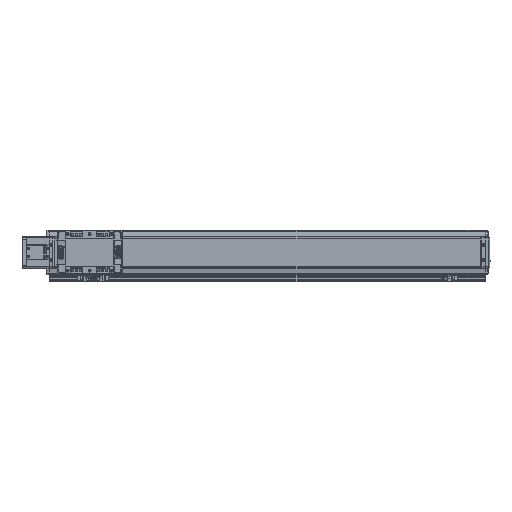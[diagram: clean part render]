
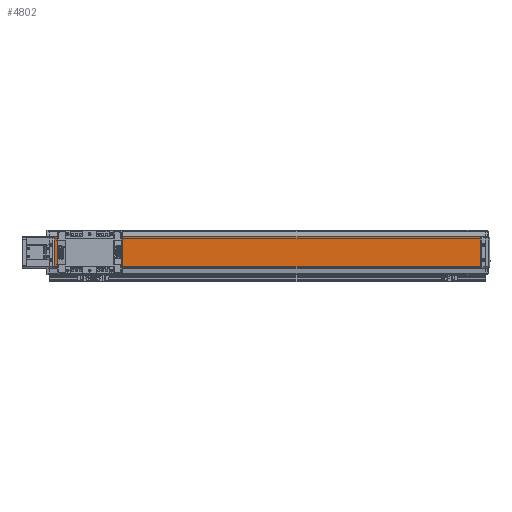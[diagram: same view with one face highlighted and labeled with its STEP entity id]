
A CAD part, top view. The second image highlights one B-rep face of the part: STEP entity #4802.
In plain terms, the highlighted planar face has unit normal (0, 0, 1).
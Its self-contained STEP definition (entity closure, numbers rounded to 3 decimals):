
#4802=ADVANCED_FACE('',(#11837),#11838,.T.);
#11837=FACE_OUTER_BOUND('',#21903,.T.);
#11838=PLANE('',#21904);
#21903=EDGE_LOOP('',(#35858,#35859,#35860,#35861));
#21904=AXIS2_PLACEMENT_3D('',#35862,#35863,#35864);
#35858=ORIENTED_EDGE('',*,*,#61375,.T.);
#35859=ORIENTED_EDGE('',*,*,#61086,.F.);
#35860=ORIENTED_EDGE('',*,*,#61376,.T.);
#35861=ORIENTED_EDGE('',*,*,#61377,.T.);
#35862=CARTESIAN_POINT('',(-580.,0.,20.15));
#35863=DIRECTION('',(0.,0.,1.0));
#35864=DIRECTION('',(0.,-1.0,0.));
#61086=EDGE_CURVE('',#74462,#74460,#74464,.T.);
#61375=EDGE_CURVE('',#74927,#74460,#74928,.T.);
#61376=EDGE_CURVE('',#74462,#74929,#74930,.T.);
#61377=EDGE_CURVE('',#74929,#74927,#74931,.T.);
#74460=VERTEX_POINT('',#92836);
#74462=VERTEX_POINT('',#92839);
#74464=LINE('',#92842,#92843);
#74927=VERTEX_POINT('',#93441);
#74928=LINE('',#93442,#93443);
#74929=VERTEX_POINT('',#93444);
#74930=LINE('',#93445,#93446);
#74931=LINE('',#93447,#93448);
#92836=CARTESIAN_POINT('',(400.,35.,20.15));
#92839=CARTESIAN_POINT('',(-580.,35.,20.15));
#92842=CARTESIAN_POINT('',(-580.,35.,20.15));
#92843=VECTOR('',#112290,10.0);
#93441=CARTESIAN_POINT('',(400.,-35.,20.15));
#93442=CARTESIAN_POINT('',(400.,35.,20.15));
#93443=VECTOR('',#112696,10.0);
#93444=CARTESIAN_POINT('',(-580.,-35.,20.15));
#93445=CARTESIAN_POINT('',(-580.,35.,20.15));
#93446=VECTOR('',#112697,10.0);
#93447=CARTESIAN_POINT('',(-580.,-35.,20.15));
#93448=VECTOR('',#112698,10.0);
#112290=DIRECTION('',(1.0,0.,0.));
#112696=DIRECTION('',(0.,1.0,0.));
#112697=DIRECTION('',(0.,-1.0,0.));
#112698=DIRECTION('',(1.0,0.,0.));
